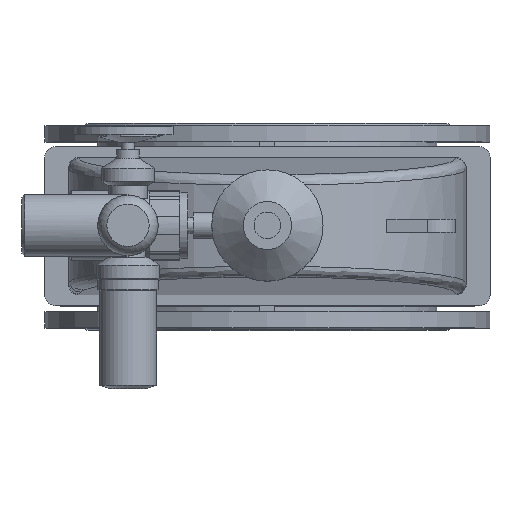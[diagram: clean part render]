
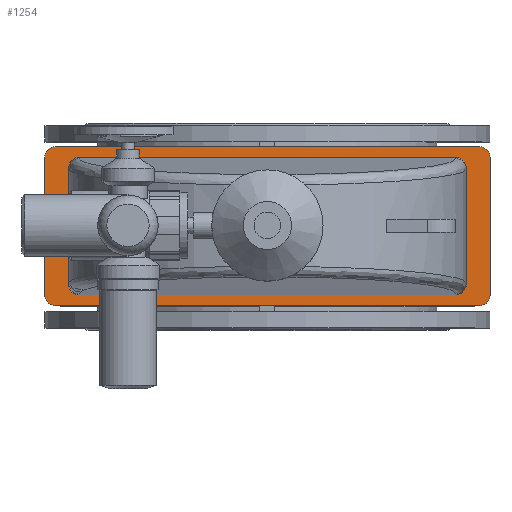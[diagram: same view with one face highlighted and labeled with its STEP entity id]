
A CAD part, top view. The second image highlights one B-rep face of the part: STEP entity #1254.
In plain terms, the highlighted planar face has unit normal (0, 0, 1).
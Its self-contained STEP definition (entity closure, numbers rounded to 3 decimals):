
#1254=ADVANCED_FACE('',(#5765,#5767),#5769,.T.);
#5765=FACE_BOUND('',#5766,.T.);
#5766=EDGE_LOOP('',(#10256,#10257,#10258,#10259,#10260,#10261,#10262,#10263));
#5767=FACE_BOUND('',#5768,.T.);
#5768=EDGE_LOOP('',(#10264,#10265,#10266,#10267,#10268,#10269,#10270,#10271));
#5769=PLANE('',#5770);
#5770=AXIS2_PLACEMENT_3D('',#5771,#5772,#5773);
#5771=CARTESIAN_POINT('',(0.,0.,876.));
#5772=DIRECTION('',(0.,-0.,1.));
#5773=DIRECTION('',(0.,1.,0.));
#10256=ORIENTED_EDGE('',*,*,#12190,.F.);
#10257=ORIENTED_EDGE('',*,*,#12191,.T.);
#10258=ORIENTED_EDGE('',*,*,#12192,.F.);
#10259=ORIENTED_EDGE('',*,*,#12193,.T.);
#10260=ORIENTED_EDGE('',*,*,#12194,.F.);
#10261=ORIENTED_EDGE('',*,*,#12195,.T.);
#10262=ORIENTED_EDGE('',*,*,#12196,.F.);
#10263=ORIENTED_EDGE('',*,*,#12197,.T.);
#10264=ORIENTED_EDGE('',*,*,#12188,.F.);
#10265=ORIENTED_EDGE('',*,*,#12187,.F.);
#10266=ORIENTED_EDGE('',*,*,#12189,.F.);
#10267=ORIENTED_EDGE('',*,*,#12164,.F.);
#10268=ORIENTED_EDGE('',*,*,#12198,.F.);
#10269=ORIENTED_EDGE('',*,*,#12199,.F.);
#10270=ORIENTED_EDGE('',*,*,#12200,.F.);
#10271=ORIENTED_EDGE('',*,*,#12157,.F.);
#12157=EDGE_CURVE('',#13426,#13428,#13429,.T.);
#12164=EDGE_CURVE('',#13438,#13436,#13440,.T.);
#12187=EDGE_CURVE('',#13475,#13473,#13477,.T.);
#12188=EDGE_CURVE('',#13473,#13426,#13478,.F.);
#12189=EDGE_CURVE('',#13436,#13475,#13479,.T.);
#12190=EDGE_CURVE('',#13480,#13481,#13482,.F.);
#12191=EDGE_CURVE('',#13480,#13483,#13484,.T.);
#12192=EDGE_CURVE('',#13485,#13483,#13486,.F.);
#12193=EDGE_CURVE('',#13485,#13487,#13488,.T.);
#12194=EDGE_CURVE('',#13489,#13487,#13490,.F.);
#12195=EDGE_CURVE('',#13489,#13491,#13492,.T.);
#12196=EDGE_CURVE('',#13493,#13491,#13494,.F.);
#12197=EDGE_CURVE('',#13493,#13481,#13495,.T.);
#12198=EDGE_CURVE('',#13496,#13438,#13497,.F.);
#12199=EDGE_CURVE('',#13498,#13496,#13499,.T.);
#12200=EDGE_CURVE('',#13428,#13498,#13500,.T.);
#13426=VERTEX_POINT('',#17178);
#13428=VERTEX_POINT('',#17182);
#13429=LINE('',#17183,#17184);
#13436=VERTEX_POINT('',#17203);
#13438=VERTEX_POINT('',#17207);
#13440=LINE('',#17211,#17212);
#13473=VERTEX_POINT('',#17294);
#13475=VERTEX_POINT('',#17298);
#13477=LINE('',#17302,#17303);
#13478=(BOUNDED_CURVE()B_SPLINE_CURVE(3,
(#17305,#17306,#17307,#17308),
.UNSPECIFIED.,.F.,.F.)B_SPLINE_CURVE_WITH_KNOTS((4,4),
(0.,1.),
.UNSPECIFIED.)CURVE()GEOMETRIC_REPRESENTATION_ITEM()RATIONAL_B_SPLINE_CURVE((1.,
0.805,0.805,1.))REPRESENTATION_ITEM(''));
#13479=(BOUNDED_CURVE()B_SPLINE_CURVE(3,
(#17309,#17310,#17311,#17312),
.UNSPECIFIED.,.F.,.F.)B_SPLINE_CURVE_WITH_KNOTS((4,4),
(0.,1.),
.UNSPECIFIED.)CURVE()GEOMETRIC_REPRESENTATION_ITEM()RATIONAL_B_SPLINE_CURVE((1.,
0.805,0.805,1.))REPRESENTATION_ITEM(''));
#13480=VERTEX_POINT('',#17313);
#13481=VERTEX_POINT('',#17314);
#13482=CIRCLE('',#17315,20.);
#13483=VERTEX_POINT('',#17319);
#13484=LINE('',#17320,#17321);
#13485=VERTEX_POINT('',#17323);
#13486=CIRCLE('',#17324,20.);
#13487=VERTEX_POINT('',#17328);
#13488=LINE('',#17329,#17330);
#13489=VERTEX_POINT('',#17332);
#13490=CIRCLE('',#17333,20.);
#13491=VERTEX_POINT('',#17337);
#13492=LINE('',#17338,#17339);
#13493=VERTEX_POINT('',#17341);
#13494=CIRCLE('',#17342,20.);
#13495=LINE('',#17346,#17347);
#13496=VERTEX_POINT('',#17349);
#13497=(BOUNDED_CURVE()B_SPLINE_CURVE(3,
(#17350,#17351,#17352,#17353),
.UNSPECIFIED.,.F.,.F.)B_SPLINE_CURVE_WITH_KNOTS((4,4),
(0.,1.),
.UNSPECIFIED.)CURVE()GEOMETRIC_REPRESENTATION_ITEM()RATIONAL_B_SPLINE_CURVE((1.,
0.805,0.805,1.))REPRESENTATION_ITEM(''));
#13498=VERTEX_POINT('',#17354);
#13499=LINE('',#17355,#17356);
#13500=(BOUNDED_CURVE()B_SPLINE_CURVE(3,
(#17358,#17359,#17360,#17361),
.UNSPECIFIED.,.F.,.F.)B_SPLINE_CURVE_WITH_KNOTS((4,4),
(0.,1.),
.UNSPECIFIED.)CURVE()GEOMETRIC_REPRESENTATION_ITEM()RATIONAL_B_SPLINE_CURVE((1.,
0.805,0.805,1.))REPRESENTATION_ITEM(''));
#17178=CARTESIAN_POINT('',(375.,-109.924,876.));
#17182=CARTESIAN_POINT('',(375.,109.924,876.));
#17183=CARTESIAN_POINT('',(375.,-109.924,876.));
#17184=VECTOR('',#17185,1.);
#17185=DIRECTION('',(0.,1.,0.));
#17203=CARTESIAN_POINT('',(-375.,-109.924,876.));
#17207=CARTESIAN_POINT('',(-375.,109.924,876.));
#17211=CARTESIAN_POINT('',(-375.,109.924,876.));
#17212=VECTOR('',#17213,1.);
#17213=DIRECTION('',(0.,-1.,0.));
#17294=CARTESIAN_POINT('',(355.,-130.,876.));
#17298=CARTESIAN_POINT('',(-355.,-130.,876.));
#17302=CARTESIAN_POINT('',(-355.,-130.,876.));
#17303=VECTOR('',#17304,1.);
#17304=DIRECTION('',(1.,0.,0.));
#17305=CARTESIAN_POINT('',(375.,-109.924,876.));
#17306=CARTESIAN_POINT('',(375.,-121.684,876.));
#17307=CARTESIAN_POINT('',(366.716,-130.,876.));
#17308=CARTESIAN_POINT('',(355.,-130.,876.));
#17309=CARTESIAN_POINT('',(-375.,-109.924,876.));
#17310=CARTESIAN_POINT('',(-375.,-121.684,876.));
#17311=CARTESIAN_POINT('',(-366.716,-130.,876.));
#17312=CARTESIAN_POINT('',(-355.,-130.,876.));
#17313=CARTESIAN_POINT('',(-400.,-150.,876.));
#17314=CARTESIAN_POINT('',(-420.,-130.,876.));
#17315=AXIS2_PLACEMENT_3D('',#17316,#17317,#17318);
#17316=CARTESIAN_POINT('',(-400.,-130.,876.));
#17317=DIRECTION('',(0.,-0.,1.));
#17318=DIRECTION('',(-1.,0.,0.));
#17319=CARTESIAN_POINT('',(400.,-150.,876.));
#17320=CARTESIAN_POINT('',(-400.,-150.,876.));
#17321=VECTOR('',#17322,1.);
#17322=DIRECTION('',(1.,0.,0.));
#17323=CARTESIAN_POINT('',(420.,-130.,876.));
#17324=AXIS2_PLACEMENT_3D('',#17325,#17326,#17327);
#17325=CARTESIAN_POINT('',(400.,-130.,876.));
#17326=DIRECTION('',(0.,-0.,1.));
#17327=DIRECTION('',(0.,-1.,0.));
#17328=CARTESIAN_POINT('',(420.,130.,876.));
#17329=CARTESIAN_POINT('',(420.,-130.,876.));
#17330=VECTOR('',#17331,1.);
#17331=DIRECTION('',(0.,1.,0.));
#17332=CARTESIAN_POINT('',(400.,150.,876.));
#17333=AXIS2_PLACEMENT_3D('',#17334,#17335,#17336);
#17334=CARTESIAN_POINT('',(400.,130.,876.));
#17335=DIRECTION('',(0.,-0.,1.));
#17336=DIRECTION('',(1.,0.,0.));
#17337=CARTESIAN_POINT('',(-400.,150.,876.));
#17338=CARTESIAN_POINT('',(400.,150.,876.));
#17339=VECTOR('',#17340,1.);
#17340=DIRECTION('',(-1.,0.,0.));
#17341=CARTESIAN_POINT('',(-420.,130.,876.));
#17342=AXIS2_PLACEMENT_3D('',#17343,#17344,#17345);
#17343=CARTESIAN_POINT('',(-400.,130.,876.));
#17344=DIRECTION('',(0.,-0.,1.));
#17345=DIRECTION('',(0.,1.,0.));
#17346=CARTESIAN_POINT('',(-420.,130.,876.));
#17347=VECTOR('',#17348,1.);
#17348=DIRECTION('',(0.,-1.,0.));
#17349=CARTESIAN_POINT('',(-355.,130.,876.));
#17350=CARTESIAN_POINT('',(-375.,109.924,876.));
#17351=CARTESIAN_POINT('',(-375.,121.684,876.));
#17352=CARTESIAN_POINT('',(-366.716,130.,876.));
#17353=CARTESIAN_POINT('',(-355.,130.,876.));
#17354=CARTESIAN_POINT('',(355.,130.,876.));
#17355=CARTESIAN_POINT('',(355.,130.,876.));
#17356=VECTOR('',#17357,1.);
#17357=DIRECTION('',(-1.,0.,0.));
#17358=CARTESIAN_POINT('',(375.,109.924,876.));
#17359=CARTESIAN_POINT('',(375.,121.684,876.));
#17360=CARTESIAN_POINT('',(366.716,130.,876.));
#17361=CARTESIAN_POINT('',(355.,130.,876.));
